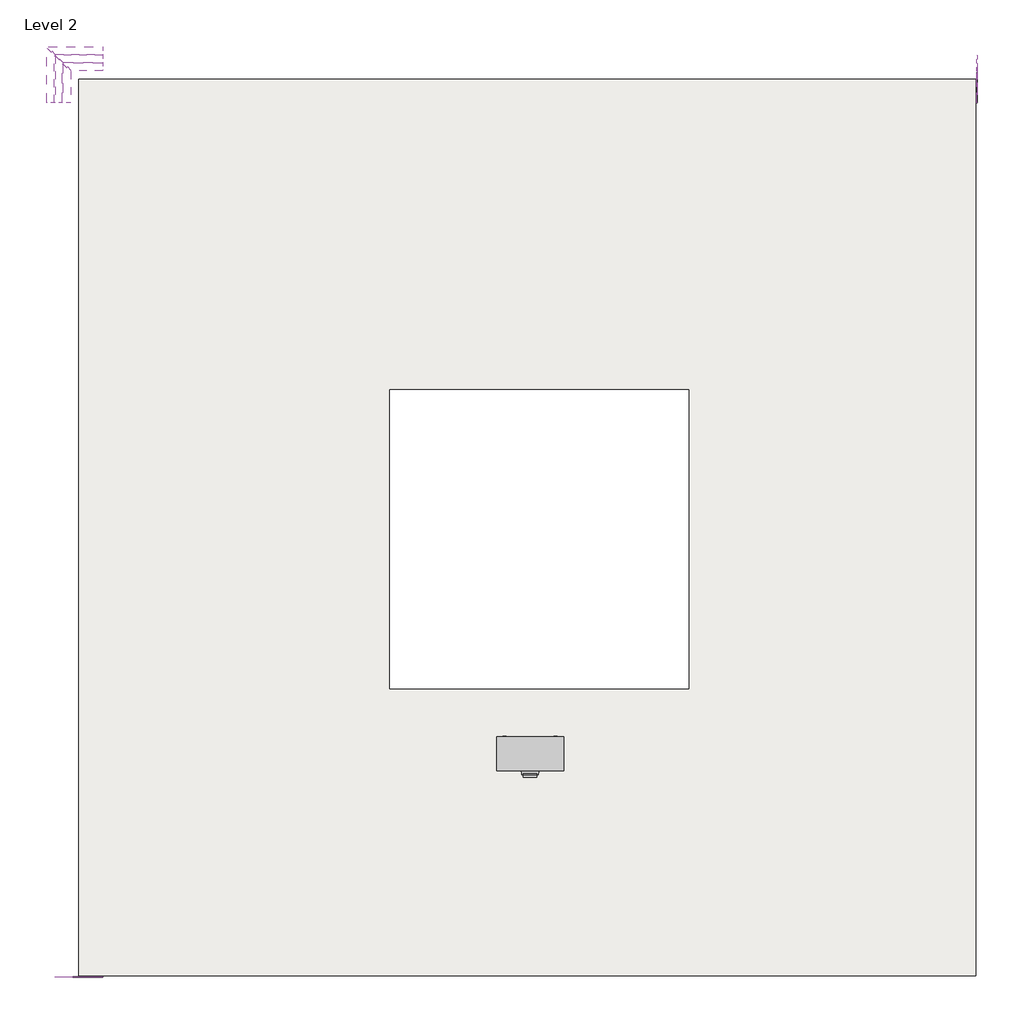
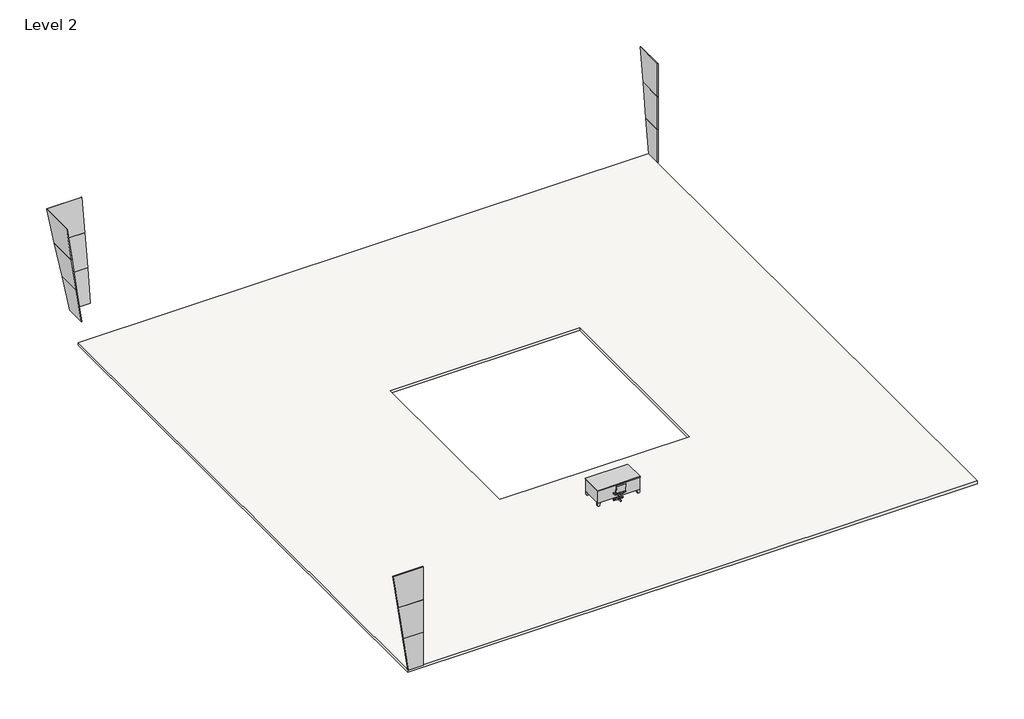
# One storey, incomplete: 12 plates, 2 furniture elements, 1 slab.
"""IFC4 building model written with IfcOpenShell, lengths in millimetres."""

import ifcopenshell
import ifcopenshell.guid

model = None  # the IFC model being written
_history = None  # IfcOwnerHistory: only IFC2X3 demands one
_inside = {}  # id of a spatial element -> (the spatial element, [elements in it])
_under = {}  # id of a project, library or spatial element -> (it, [spatial elements below it])
_declared = {}  # id of a project -> (the project, [libraries it declares])
_typed = {}  # id of a type object -> (the type object, [elements of that type])
_made_of = {}  # id of a material, layer set ... -> (it, [elements and type objects made of it])


def new_model(schema):
    """Start an empty IFC model of exactly this schema.

    Asked for "IFC4X3", IfcOpenShell would pick the latest addendum, in which some entities
    have other attributes; the version numbers below select the first issue.
    IFC2X3 requires an IfcOwnerHistory on every rooted entity: one is made here for all.
    """
    global model, _history
    if schema == "IFC4X3":
        model = ifcopenshell.file(schema_version=(4, 3, 0, 0))
    else:
        model = ifcopenshell.file(schema=schema)
    _inside.clear()
    _under.clear()
    _declared.clear()
    _typed.clear()
    _made_of.clear()
    _history = None
    if model.schema == "IFC2X3":
        org = make("IfcOrganization", Name="unknown")
        user = make(
            "IfcPersonAndOrganization",
            ThePerson=make("IfcPerson", FamilyName="unknown"),
            TheOrganization=org,
        )
        app = make(
            "IfcApplication",
            ApplicationDeveloper=org,
            Version="unknown",
            ApplicationFullName="unknown",
            ApplicationIdentifier="unknown",
        )
        _history = make(
            "IfcOwnerHistory",
            OwningUser=user,
            OwningApplication=app,
            ChangeAction="ADDED",
            CreationDate=0,
        )
    return model


def make(cls, **values):
    """One entity of the class cls with the attributes given. An attribute that is None is left unset."""
    return model.create_entity(
        cls, **{name: value for name, value in values.items() if value is not None}
    )


def rooted(cls, **values):
    """An entity with a GlobalId (a new one), such as an element, a storey or a relation."""
    return make(cls, GlobalId=ifcopenshell.guid.new(), OwnerHistory=_history, **values)


def si_unit(unit_type, name, prefix=None):
    """IfcSIUnit, for example si_unit("LENGTHUNIT", "METRE", prefix="MILLI")."""
    return make("IfcSIUnit", UnitType=unit_type, Prefix=prefix, Name=name)


def assignment(units):
    """IfcUnitAssignment: the units of a project."""
    return None if units is None else make("IfcUnitAssignment", Units=units)


def point(xyz):
    """IfcCartesianPoint."""
    return None if xyz is None else make("IfcCartesianPoint", Coordinates=xyz)


def direction(xyz):
    """IfcDirection."""
    return None if xyz is None else make("IfcDirection", DirectionRatios=xyz)


def frame(location, z_axis=None, x_axis=None):
    """IfcAxis2Placement3D, a coordinate frame: its origin and axes. An axis left out is left unset."""
    return make(
        "IfcAxis2Placement3D",
        Location=point(location),
        Axis=direction(z_axis),
        RefDirection=direction(x_axis),
    )


def frame_2d(location, x_axis=None):
    """IfcAxis2Placement2D, a coordinate frame in the plane: its origin and x axis."""
    return make(
        "IfcAxis2Placement2D", Location=point(location), RefDirection=direction(x_axis)
    )


def origin():
    """The frame at (0, 0, 0) with its axes left unset."""
    return frame((0.0, 0.0, 0.0))


def origin_with_axes():
    """The frame at (0, 0, 0) with the z axis (0, 0, 1) and the x axis (1, 0, 0) written out."""
    return frame((0.0, 0.0, 0.0), z_axis=(0.0, 0.0, 1.0), x_axis=(1.0, 0.0, 0.0))


def place(relative_to, where):
    """IfcLocalPlacement: puts the frame where relative to a parent placement (None: the world)."""
    return make(
        "IfcLocalPlacement", PlacementRelTo=relative_to, RelativePlacement=where
    )


def context(
    kind, dimensions, precision=None, world=None, true_north=None, identifier=None
):
    """IfcGeometricRepresentationContext, for example the 3D "Model" context."""
    return make(
        "IfcGeometricRepresentationContext",
        ContextIdentifier=identifier,
        ContextType=kind,
        CoordinateSpaceDimension=dimensions,
        Precision=precision,
        WorldCoordinateSystem=world,
        TrueNorth=true_north,
    )


def project(units=None, contexts=None):
    """IfcProject with its units and contexts."""
    return rooted(
        "IfcProject",
        Name="project",
        RepresentationContexts=contexts,
        UnitsInContext=assignment(units),
    )


def spatial(cls, under=None, at=None, **own):
    """A site, building, storey or space (cls), placed at a placement, below another one or the project."""
    s = rooted(cls, ObjectPlacement=at, **own)
    if under is not None:
        _under.setdefault(under.id(), (under, []))[1].append(s)
    return s


def polyline(points):
    """IfcPolyline through the points."""
    return make("IfcPolyline", Points=[point(p) for p in points])


def circle_curve(where, radius):
    """IfcCircle in the frame where."""
    return make("IfcCircle", Position=where, Radius=radius)


def trimmed(basis, trim1, trim2, sense, master):
    """IfcTrimmedCurve: the piece of a basis curve between two trims."""
    return make(
        "IfcTrimmedCurve",
        BasisCurve=basis,
        Trim1=trim1,
        Trim2=trim2,
        SenseAgreement=sense,
        MasterRepresentation=master,
    )


def segment(curve, same_sense, transition):
    """IfcCompositeCurveSegment."""
    return make(
        "IfcCompositeCurveSegment",
        Transition=transition,
        SameSense=same_sense,
        ParentCurve=curve,
    )


def composite_curve(segments, self_intersect=None):
    """IfcCompositeCurve: segments joined end to end."""
    return make("IfcCompositeCurve", Segments=segments, SelfIntersect=self_intersect)


def outline(outer, holes=None, kind="AREA"):
    """IfcArbitraryClosedProfileDef: a profile drawn as a closed curve; with holes, ...WithVoids."""
    if holes is None:
        return make("IfcArbitraryClosedProfileDef", ProfileType=kind, OuterCurve=outer)
    return make(
        "IfcArbitraryProfileDefWithVoids",
        ProfileType=kind,
        OuterCurve=outer,
        InnerCurves=holes,
    )


def extrude(swept, where, along, depth):
    """IfcExtrudedAreaSolid: the profile swept, set in the frame where, extruded along a direction by depth."""
    return make(
        "IfcExtrudedAreaSolid",
        SweptArea=swept,
        Position=where,
        ExtrudedDirection=direction(along),
        Depth=depth,
    )


def faces_of(points, faces, orient=None, outer=None):
    """IfcFace entities. A face is a list of loops; a loop is a list of indices into points, from 0.

    orient and outer hold one flag for each loop. By default every Orientation is true, the
    first loop of a face is its IfcFaceOuterBound and the others are IfcFaceBound.
    """
    made = []
    for i, loops in enumerate(faces):
        bounds = []
        for j, loop in enumerate(loops):
            is_outer = j == 0 if outer is None else outer[i][j]
            bounds.append(
                make(
                    "IfcFaceOuterBound" if is_outer else "IfcFaceBound",
                    Bound=make("IfcPolyLoop", Polygon=[points[k] for k in loop]),
                    Orientation=True if orient is None else orient[i][j],
                )
            )
        made.append(make("IfcFace", Bounds=bounds))
    return made


def faceted_brep(points, faces, orient=None, outer=None, voids=None):
    """IfcFacetedBrep: a solid bounded by flat faces; with voids (closed shells), ...WithVoids."""
    shared = [point(p) for p in points]
    hull = make("IfcClosedShell", CfsFaces=faces_of(shared, faces, orient, outer))
    if voids is None:
        return make("IfcFacetedBrep", Outer=hull)
    return make(
        "IfcFacetedBrepWithVoids",
        Outer=hull,
        Voids=[
            make(cls, CfsFaces=faces_of(shared, fs, o, b)) for cls, fs, o, b in voids
        ],
    )


def shape(context_of_items, identifier, shape_type, items):
    """IfcShapeRepresentation: the items that make up one representation, for example the "Body"."""
    return make(
        "IfcShapeRepresentation",
        ContextOfItems=context_of_items,
        RepresentationIdentifier=identifier,
        RepresentationType=shape_type,
        Items=items,
    )


def source(mapping_origin, context_of_items, identifier, shape_type, items):
    """IfcRepresentationMap: a shape defined once, which mapped items show again and again."""
    return make(
        "IfcRepresentationMap",
        MappingOrigin=mapping_origin,
        MappedRepresentation=shape(context_of_items, identifier, shape_type, items),
    )


def transform(
    local_origin,
    x_axis=None,
    y_axis=None,
    z_axis=None,
    scale=None,
    scale2=None,
    scale3=None,
    uniform=True,
):
    """IfcCartesianTransformationOperator3D, or its non-uniform kind. x_axis, y_axis, z_axis: its Axis1, 2, 3."""
    if uniform:
        return make(
            "IfcCartesianTransformationOperator3D",
            Axis1=direction(x_axis),
            Axis2=direction(y_axis),
            LocalOrigin=point(local_origin),
            Scale=scale,
            Axis3=direction(z_axis),
        )
    return make(
        "IfcCartesianTransformationOperator3DnonUniform",
        Axis1=direction(x_axis),
        Axis2=direction(y_axis),
        LocalOrigin=point(local_origin),
        Scale=scale,
        Axis3=direction(z_axis),
        Scale2=scale2,
        Scale3=scale3,
    )


def mapped(mapping_source, mapping_target):
    """IfcMappedItem: shows the shape of a source again, moved by a transform."""
    return make(
        "IfcMappedItem", MappingSource=mapping_source, MappingTarget=mapping_target
    )


def made_of(thing, what):
    """Note that an element or type object is made of a material, layer set ...; save() writes the relation."""
    if what is not None:
        _made_of.setdefault(what.id(), (what, []))[1].append(thing)
    return thing


def element(
    cls,
    number,
    at=None,
    inside=None,
    cuts=None,
    type_object=None,
    material=None,
    context=None,
    identifier="Body",
    shape_type=None,
    held_by="IfcProductDefinitionShape",
    body=None,
    shapes=None,
    **own,
):
    """One element of the class cls, such as IfcWall. Its Tag is "e" and its number.

    at: its placement. inside: the storey or other place that contains it. cuts: it is an
    opening in that element (IfcRelVoidsElement). A single representation is given by context,
    identifier, shape_type and body (its items); several are given by shapes. held_by: the class
    of the entity that holds the representations. save() writes the other relations.
    """
    e = rooted(cls, Tag="e%d" % number, ObjectPlacement=at, **own)
    if body is not None:
        shapes = [shape(context, identifier, shape_type, body)]
    if shapes is not None:
        e.Representation = make(held_by, Representations=shapes)
    if inside is not None:
        _inside.setdefault(inside.id(), (inside, []))[1].append(e)
    if cuts is not None:
        rooted(
            "IfcRelVoidsElement", RelatingBuildingElement=cuts, RelatedOpeningElement=e
        )
    if type_object is not None:
        _typed.setdefault(type_object.id(), (type_object, []))[1].append(e)
    return made_of(e, material)


def aggregate(whole, parts):
    """IfcRelAggregates: a whole, such as a stair, and the parts it consists of."""
    return rooted("IfcRelAggregates", RelatingObject=whole, RelatedObjects=parts)


def save(model, path):
    """Write the relations noted so far, then the file.

    IfcRelAggregates (storeys below a building ...), IfcRelContainedInSpatialStructure (elements
    in a storey), IfcRelDefinesByType, IfcRelAssociatesMaterial and IfcRelDeclares: one each for
    every whole, place, type object, material and project.
    """
    for whole, parts in _under.values():
        aggregate(whole, parts)
    for where, things in _inside.values():
        rooted(
            "IfcRelContainedInSpatialStructure",
            RelatedElements=things,
            RelatingStructure=where,
        )
    for kind, things in _typed.values():
        rooted("IfcRelDefinesByType", RelatedObjects=things, RelatingType=kind)
    for what, things in _made_of.values():
        rooted("IfcRelAssociatesMaterial", RelatedObjects=things, RelatingMaterial=what)
    for by, libraries in _declared.values():
        rooted("IfcRelDeclares", RelatingContext=by, RelatedDefinitions=libraries)
    model.write(path)


def chair_desk_chair_desk_ccc35c8f(model_context):
    return source(origin(), model_context, "Body", "SweptSolid", [
        extrude(outline(polyline([(-203.6618182, 175.0290909), (-25.8618182, 175.0290909), (-25.8618182, 150.0462968), (-203.6618182, 150.0462968), (-203.6618182, 175.0290909)])), origin_with_axes(), (0.0, 0.0, 1.0), 58.5040426),
        extrude(outline(polyline([(204.1236364, 175.0290909), (204.1236364, 152.4), (26.7854545, 152.4), (26.7854545, 175.0290909), (204.1236364, 175.0290909)])), origin_with_axes(), (0.0, 0.0, 1.0), 58.5040426),
        extrude(outline(polyline([(-16.1636364, 188.8836364), (-16.1636364, 374.9517514), (14.3163636, 374.9517514), (14.3163636, 188.8836364), (-16.1636364, 188.8836364)])), origin_with_axes(), (0.0, 0.0, 1.0), 58.5040426),
        extrude(outline(polyline([(14.3163636, 136.2363636), (14.3163636, -33.2509091), (-16.1636364, -33.2509091), (-16.1636364, 136.2363636), (14.3163636, 136.2363636)])), origin_with_axes(), (0.0, 0.0, 1.0), 58.5040426),
        extrude(outline(polyline([(26.3236364, 190.2690909), (26.3236364, 139.4690909), (-24.4763636, 139.4690909), (-24.4763636, 190.2690909), (26.3236364, 190.2690909)])), origin_with_axes(), (0.0, 0.0, 1.0), 355.6),
        extrude(outline(composite_curve([segment(polyline([(-13.6321252, 787.4), (25.5523927, 451.3880753)]), True, "CONTINUOUS"), segment(trimmed(circle_curve(frame_2d((0.0761963, 451.3880753)), 25.4761963), [point((25.5523927, 451.3880753))], [point((-25.4, 451.3880753))], False, "CARTESIAN"), True, "CONTINUOUS"), segment(polyline([(-25.4, 451.3880753), (-67.209111, 787.4)]), True, "CONTINUOUS"), segment(trimmed(circle_curve(frame_2d((-40.4206181, 787.4)), 26.7884929), [point((-67.209111, 787.4))], [point((-13.6321252, 787.4))], False, "CARTESIAN"), True, "CONTINUOUS")], self_intersect=False)), frame((-194.3643056, 0.0, 0.0), z_axis=(1.0, 0.0, 0.0), x_axis=(0.0, 1.0, 0.0)), (0.0, 0.0, 1.0), 383.2768056),
        extrude(outline(composite_curve([segment(trimmed(circle_curve(frame_2d((-157.1362322, 297.1024212)), 109.4001491), [point((-266.4057871, 302.4462968))], [point((-152.4, 406.4))], False, "CARTESIAN"), True, "CONTINUOUS"), segment(polyline([(-152.4, 406.4), (162.2530084, 406.4)]), True, "CONTINUOUS"), segment(trimmed(circle_curve(frame_2d((162.2530084, 302.4462968)), 103.9537032), [point((162.2530084, 406.4))], [point((266.2067116, 302.4462968))], False, "CARTESIAN"), True, "CONTINUOUS"), segment(polyline([(266.2067116, 302.4462968), (228.6, 0.0)]), True, "CONTINUOUS"), segment(trimmed(circle_curve(frame_2d((0.0, 446.8941036)), 501.9684252), [point((228.6, 0.0))], [point((-228.6, 0.0))], False, "CARTESIAN"), True, "CONTINUOUS"), segment(polyline([(-228.6, 0.0), (-266.4057871, 302.4462968)]), True, "CONTINUOUS")], self_intersect=False)), frame((0.0, 0.0, 355.6), z_axis=(0.0, 0.0, 1.0), x_axis=(1.0, 0.0, 0.0)), (0.0, 0.0, 1.0), 50.8),
    ])


def furniture_2fc54265(model_context):
    return source(origin(), model_context, "Body", "SolidModel", [
        extrude(outline(polyline([(1809.75, 914.4), (1441.45, 914.4), (1441.45, 927.1), (1809.75, 927.1), (1809.75, 914.4)])), frame((0.0, 0.0, 603.25), z_axis=(0.0, 0.0, 1.0), x_axis=(1.0, 0.0, 0.0)), (0.0, 0.0, 1.0), 101.6),
        extrude(outline(polyline([(1809.75, 914.4), (1441.45, 914.4), (1441.45, 927.1), (1809.75, 927.1), (1809.75, 914.4)])), frame((0.0, 0.0, 171.45), z_axis=(0.0, 0.0, 1.0), x_axis=(1.0, 0.0, 0.0)), (0.0, 0.0, 1.0), 412.75),
        extrude(outline(polyline([(387.35, 914.4), (19.05, 914.4), (19.05, 927.1), (387.35, 927.1), (387.35, 914.4)])), frame((0.0, 0.0, 603.25), z_axis=(0.0, 0.0, 1.0), x_axis=(1.0, 0.0, 0.0)), (0.0, 0.0, 1.0), 101.6),
        extrude(outline(polyline([(387.35, 914.4), (19.05, 914.4), (19.05, 927.1), (387.35, 927.1), (387.35, 914.4)])), frame((0.0, 0.0, 171.45), z_axis=(0.0, 0.0, 1.0), x_axis=(1.0, 0.0, 0.0)), (0.0, 0.0, 1.0), 171.45),
        extrude(outline(polyline([(387.35, 914.4), (19.05, 914.4), (19.05, 927.1), (387.35, 927.1), (387.35, 914.4)])), frame((0.0, 0.0, 482.6), z_axis=(0.0, 0.0, 1.0), x_axis=(1.0, 0.0, 0.0)), (0.0, 0.0, 1.0), 101.6),
        extrude(outline(polyline([(387.35, 914.4), (19.05, 914.4), (19.05, 927.1), (387.35, 927.1), (387.35, 914.4)])), frame((0.0, 0.0, 361.95), z_axis=(0.0, 0.0, 1.0), x_axis=(1.0, 0.0, 0.0)), (0.0, 0.0, 1.0), 101.6),
        faceted_brep([(1727.2, 914.4, 152.4), (1727.2, 812.8, 152.4), (1828.8, 812.8, 152.4), (1828.8, 914.4, 152.4), (1752.6, 914.4, 0.0), (1828.8, 914.4, 0.0), (1828.8, 838.2, 0.0), (1752.6, 838.2, 0.0)], [[[0, 1, 2, 3]], [[4, 5, 6, 7]], [[4, 7, 1, 0]], [[7, 6, 2, 1]], [[6, 5, 3, 2]], [[5, 4, 0, 3]]]),
        faceted_brep([(1727.2, 0.0, 152.4), (1828.8, 0.0, 152.4), (1828.8, 101.6, 152.4), (1727.2, 101.6, 152.4), (1752.6, 0.0, 0.0), (1752.6, 76.2, 0.0), (1828.8, 76.2, 0.0), (1828.8, 0.0, 0.0)], [[[0, 1, 2, 3]], [[4, 5, 6, 7]], [[4, 7, 1, 0]], [[7, 6, 2, 1]], [[6, 5, 3, 2]], [[5, 4, 0, 3]]]),
        faceted_brep([(101.6, 0.0, 152.4), (101.6, 101.6, 152.4), (0.0, 101.6, 152.4), (0.0, 0.0, 152.4), (76.2, 0.0, 0.0), (0.0, 0.0, 0.0), (0.0, 76.2, 0.0), (76.2, 76.2, 0.0)], [[[0, 1, 2, 3]], [[4, 5, 6, 7]], [[4, 7, 1, 0]], [[7, 6, 2, 1]], [[6, 5, 3, 2]], [[5, 4, 0, 3]]]),
        faceted_brep([(101.6, 914.4, 152.4), (0.0, 914.4, 152.4), (0.0, 812.8, 152.4), (101.6, 812.8, 152.4), (76.2, 914.4, 0.0), (76.2, 838.2, 0.0), (0.0, 838.2, 0.0), (0.0, 914.4, 0.0)], [[[0, 1, 2, 3]], [[4, 5, 6, 7]], [[4, 7, 1, 0]], [[7, 6, 2, 1]], [[6, 5, 3, 2]], [[5, 4, 0, 3]]]),
        extrude(outline(polyline([(1847.85, 933.45), (1847.85, -19.05), (-19.05, -19.05), (-19.05, 933.45), (1847.85, 933.45)])), frame((0.0, 0.0, 723.9), z_axis=(0.0, 0.0, 1.0), x_axis=(1.0, 0.0, 0.0)), (0.0, 0.0, 1.0), 38.1),
        extrude(outline(polyline([(406.4, 914.4), (406.4, 50.8), (1422.4, 50.8), (1422.4, 914.4), (1828.8, 914.4), (1828.8, 0.0), (0.0, 0.0), (0.0, 914.4), (406.4, 914.4)])), frame((0.0, 0.0, 152.4), z_axis=(0.0, 0.0, 1.0), x_axis=(1.0, 0.0, 0.0)), (0.0, 0.0, 1.0), 571.5),
        faceted_brep([(1670.05, 927.1, 546.1), (1670.05, 927.1, 533.4), (1676.4, 927.1, 533.4), (1676.4, 927.1, 546.1), (1670.05, 946.15, 546.1), (1670.05, 946.15, 533.4), (1676.4, 952.5, 533.4), (1676.4, 952.5, 546.1), (1581.15, 946.15, 546.1), (1581.15, 946.15, 533.4), (1574.8, 952.5, 533.4), (1574.8, 952.5, 546.1), (1581.15, 927.1, 546.1), (1574.8, 927.1, 546.1), (1574.8, 927.1, 533.4), (1581.15, 927.1, 533.4)], [[[0, 1, 2, 3]], [[1, 0, 4, 5]], [[2, 1, 5, 6]], [[3, 2, 6, 7]], [[0, 3, 7, 4]], [[5, 4, 8, 9]], [[6, 5, 9, 10]], [[7, 6, 10, 11]], [[4, 7, 11, 8]], [[12, 13, 14, 15]], [[9, 8, 12, 15]], [[10, 9, 15, 14]], [[11, 10, 14, 13]], [[8, 11, 13, 12]]]),
        faceted_brep([(1670.05, 927.1, 666.75), (1670.05, 927.1, 654.05), (1676.4, 927.1, 654.05), (1676.4, 927.1, 666.75), (1670.05, 946.15, 666.75), (1670.05, 946.15, 654.05), (1676.4, 952.5, 654.05), (1676.4, 952.5, 666.75), (1581.15, 946.15, 666.75), (1581.15, 946.15, 654.05), (1574.8, 952.5, 654.05), (1574.8, 952.5, 666.75), (1581.15, 927.1, 666.75), (1574.8, 927.1, 666.75), (1574.8, 927.1, 654.05), (1581.15, 927.1, 654.05)], [[[0, 1, 2, 3]], [[1, 0, 4, 5]], [[2, 1, 5, 6]], [[3, 2, 6, 7]], [[0, 3, 7, 4]], [[5, 4, 8, 9]], [[6, 5, 9, 10]], [[7, 6, 10, 11]], [[4, 7, 11, 8]], [[12, 13, 14, 15]], [[9, 8, 12, 15]], [[10, 9, 15, 14]], [[11, 10, 14, 13]], [[8, 11, 13, 12]]]),
        faceted_brep([(158.75, 927.1, 304.8), (152.4, 927.1, 304.8), (152.4, 927.1, 292.1), (158.75, 927.1, 292.1), (158.75, 946.15, 304.8), (152.4, 952.5, 304.8), (152.4, 952.5, 292.1), (158.75, 946.15, 292.1), (247.65, 946.15, 304.8), (254.0, 952.5, 304.8), (254.0, 952.5, 292.1), (247.65, 946.15, 292.1), (247.65, 927.1, 304.8), (247.65, 927.1, 292.1), (254.0, 927.1, 292.1), (254.0, 927.1, 304.8)], [[[0, 1, 2, 3]], [[1, 0, 4, 5]], [[2, 1, 5, 6]], [[3, 2, 6, 7]], [[0, 3, 7, 4]], [[5, 4, 8, 9]], [[6, 5, 9, 10]], [[7, 6, 10, 11]], [[4, 7, 11, 8]], [[12, 13, 14, 15]], [[9, 8, 12, 15]], [[10, 9, 15, 14]], [[11, 10, 14, 13]], [[8, 11, 13, 12]]]),
        faceted_brep([(158.75, 927.1, 425.45), (152.4, 927.1, 425.45), (152.4, 927.1, 412.75), (158.75, 927.1, 412.75), (158.75, 946.15, 425.45), (152.4, 952.5, 425.45), (152.4, 952.5, 412.75), (158.75, 946.15, 412.75), (247.65, 946.15, 425.45), (254.0, 952.5, 425.45), (254.0, 952.5, 412.75), (247.65, 946.15, 412.75), (247.65, 927.1, 425.45), (247.65, 927.1, 412.75), (254.0, 927.1, 412.75), (254.0, 927.1, 425.45)], [[[0, 1, 2, 3]], [[1, 0, 4, 5]], [[2, 1, 5, 6]], [[3, 2, 6, 7]], [[0, 3, 7, 4]], [[5, 4, 8, 9]], [[6, 5, 9, 10]], [[7, 6, 10, 11]], [[4, 7, 11, 8]], [[12, 13, 14, 15]], [[9, 8, 12, 15]], [[10, 9, 15, 14]], [[11, 10, 14, 13]], [[8, 11, 13, 12]]]),
        faceted_brep([(158.75, 927.1, 546.1), (152.4, 927.1, 546.1), (152.4, 927.1, 533.4), (158.75, 927.1, 533.4), (158.75, 946.15, 546.1), (152.4, 952.5, 546.1), (152.4, 952.5, 533.4), (158.75, 946.15, 533.4), (247.65, 946.15, 546.1), (254.0, 952.5, 546.1), (254.0, 952.5, 533.4), (247.65, 946.15, 533.4), (247.65, 927.1, 546.1), (247.65, 927.1, 533.4), (254.0, 927.1, 533.4), (254.0, 927.1, 546.1)], [[[0, 1, 2, 3]], [[1, 0, 4, 5]], [[2, 1, 5, 6]], [[3, 2, 6, 7]], [[0, 3, 7, 4]], [[5, 4, 8, 9]], [[6, 5, 9, 10]], [[7, 6, 10, 11]], [[4, 7, 11, 8]], [[12, 13, 14, 15]], [[9, 8, 12, 15]], [[10, 9, 15, 14]], [[11, 10, 14, 13]], [[8, 11, 13, 12]]]),
        faceted_brep([(158.75, 927.1, 666.75), (152.4, 927.1, 666.75), (152.4, 927.1, 654.05), (158.75, 927.1, 654.05), (158.75, 946.15, 666.75), (152.4, 952.5, 666.75), (152.4, 952.5, 654.05), (158.75, 946.15, 654.05), (247.65, 946.15, 666.75), (254.0, 952.5, 666.75), (254.0, 952.5, 654.05), (247.65, 946.15, 654.05), (247.65, 927.1, 666.75), (247.65, 927.1, 654.05), (254.0, 927.1, 654.05), (254.0, 927.1, 666.75)], [[[0, 1, 2, 3]], [[1, 0, 4, 5]], [[2, 1, 5, 6]], [[3, 2, 6, 7]], [[0, 3, 7, 4]], [[5, 4, 8, 9]], [[6, 5, 9, 10]], [[7, 6, 10, 11]], [[4, 7, 11, 8]], [[12, 13, 14, 15]], [[9, 8, 12, 15]], [[10, 9, 15, 14]], [[11, 10, 14, 13]], [[8, 11, 13, 12]]]),
    ])


def system_panel_glazed_f2a6c490(model_context):
    return source(origin(), model_context, "Body", "SweptSolid", [
        extrude(outline(polyline([(0.0, -325.5680328), (0.0, 542.6133879), (1524.0, 542.6133879), (1524.0, -542.6133879), (0.0, -325.5680328)])), frame((0.0, 19.05, 0.0), z_axis=(0.0, 1.0, 0.0), x_axis=(0.0, 0.0, 1.0)), (0.0, 0.0, 1.0), 25.4),
    ])


def system_panel_glazed_aa88bed7(model_context):
    return source(origin(), model_context, "Body", "SweptSolid", [
        extrude(outline(polyline([(0.0, -434.0907104), (0.0, 651.1360655), (1524.0, 651.1360655), (1524.0, -651.1360655), (0.0, -434.0907104)])), frame((0.0, 19.05, 0.0), z_axis=(0.0, 1.0, 0.0), x_axis=(0.0, 0.0, 1.0)), (0.0, 0.0, 1.0), 25.4),
    ])


def system_panel_glazed_8974581c(model_context):
    return source(origin(), model_context, "Body", "SweptSolid", [
        extrude(outline(polyline([(0.0, -542.6133879), (0.0, 759.658743), (1524.0, 759.658743), (1524.0, -759.658743), (0.0, -542.6133879)])), frame((0.0, 19.05, 0.0), z_axis=(0.0, 1.0, 0.0), x_axis=(0.0, 0.0, 1.0)), (0.0, 0.0, 1.0), 25.4),
    ])


def system_panel_glazed_7921cbcf(model_context):
    return source(origin(), model_context, "Body", "SweptSolid", [
        extrude(outline(polyline([(0.0, -542.6133877), (0.0, 325.5680326), (1524.0, 542.6133877), (1524.0, -542.6133877), (0.0, -542.6133877)])), frame((0.0, 19.05, 0.0), z_axis=(0.0, 1.0, 0.0), x_axis=(0.0, 0.0, 1.0)), (0.0, 0.0, 1.0), 25.4),
    ])


def system_panel_glazed_529520c9(model_context):
    return source(origin(), model_context, "Body", "SweptSolid", [
        extrude(outline(polyline([(0.0, -651.1360653), (0.0, 434.0907102), (1524.0, 651.1360653), (1524.0, -651.1360653), (0.0, -651.1360653)])), frame((0.0, 19.05, 0.0), z_axis=(0.0, 1.0, 0.0), x_axis=(0.0, 0.0, 1.0)), (0.0, 0.0, 1.0), 25.4),
    ])


def system_panel_glazed_3f6d0544(model_context):
    return source(origin(), model_context, "Body", "SweptSolid", [
        extrude(outline(polyline([(0.0, -759.6587428), (0.0, 542.6133877), (1524.0, 759.6587428), (1524.0, -759.6587428), (0.0, -759.6587428)])), frame((0.0, 19.05, 0.0), z_axis=(0.0, 1.0, 0.0), x_axis=(0.0, 0.0, 1.0)), (0.0, 0.0, 1.0), 25.4),
    ])


def system_panel_glazed_ce6372bf(model_context):
    return source(origin(), model_context, "Body", "SweptSolid", [
        extrude(outline(polyline([(0.0, -219.2805757), (0.0, 438.5611512), (1524.0, 438.5611512), (1524.0, -438.5611512), (0.0, -219.2805757)])), frame((0.0, 19.05, 0.0), z_axis=(0.0, 1.0, 0.0), x_axis=(0.0, 0.0, 1.0)), (0.0, 0.0, 1.0), 25.4),
    ])


def system_panel_glazed_0fee5127(model_context):
    return source(origin(), model_context, "Body", "SweptSolid", [
        extrude(outline(polyline([(0.0, -328.9208635), (0.0, 548.201439), (1524.0, 548.201439), (1524.0, -548.201439), (0.0, -328.9208635)])), frame((0.0, 19.05, 0.0), z_axis=(0.0, 1.0, 0.0), x_axis=(0.0, 0.0, 1.0)), (0.0, 0.0, 1.0), 25.4),
    ])


def system_panel_glazed_089a2384(model_context):
    return source(origin(), model_context, "Body", "SweptSolid", [
        extrude(outline(polyline([(0.0, -438.5611512), (0.0, 657.8417268), (1524.0, 657.8417268), (1524.0, -657.8417268), (0.0, -438.5611512)])), frame((0.0, 19.05, 0.0), z_axis=(0.0, 1.0, 0.0), x_axis=(0.0, 0.0, 1.0)), (0.0, 0.0, 1.0), 25.4),
    ])


def system_panel_glazed_327a8c87(model_context):
    return source(origin(), model_context, "Body", "SweptSolid", [
        extrude(outline(polyline([(0.0, -438.5611511), (0.0, 219.2805755), (1524.0, 438.5611511), (1524.0, -438.5611511), (0.0, -438.5611511)])), frame((0.0, 19.05, 0.0), z_axis=(0.0, 1.0, 0.0), x_axis=(0.0, 0.0, 1.0)), (0.0, 0.0, 1.0), 25.4),
    ])


def system_panel_glazed_b25ebf19(model_context):
    return source(origin(), model_context, "Body", "SweptSolid", [
        extrude(outline(polyline([(0.0, -548.2014388), (0.0, 328.9208633), (1524.0, 548.2014388), (1524.0, -548.2014388), (0.0, -548.2014388)])), frame((0.0, 19.05, 0.0), z_axis=(0.0, 1.0, 0.0), x_axis=(0.0, 0.0, 1.0)), (0.0, 0.0, 1.0), 25.4),
    ])


def system_panel_glazed_48efdeb7(model_context):
    return source(origin(), model_context, "Body", "SweptSolid", [
        extrude(outline(polyline([(0.0, -657.8417266), (0.0, 438.5611511), (1524.0, 657.8417266), (1524.0, -657.8417266), (0.0, -657.8417266)])), frame((0.0, 19.05, 0.0), z_axis=(0.0, 1.0, 0.0), x_axis=(0.0, 0.0, 1.0)), (0.0, 0.0, 1.0), 25.4),
    ])


model = new_model("IFC4")

# Units and contexts
model_context = context("Model", 3, world=origin())
ifc_project = project(units=[si_unit("LENGTHUNIT", "METRE", prefix="MILLI")], contexts=[model_context])

# Site, building, storey
site = spatial("IfcSite", under=ifc_project)
building = spatial("IfcBuilding", under=site)
storey = spatial("IfcBuildingStorey", under=building, Name="Level 2", Elevation=4572.0)

# Furniture
placement = place(None, origin())
chair_desk_chair_desk_shape = chair_desk_chair_desk_ccc35c8f(model_context)
element("IfcFurniture", 1, ObjectType="Chair-Desk : Chair-Desk", at=placement, inside=storey, context=model_context, shape_type="MappedRepresentation", body=[
    mapped(chair_desk_chair_desk_shape, transform((-3928.2026957, -6947.9708988, 4572.0), x_axis=(1.0, 0.0, 0.0), y_axis=(0.0, 1.0, 0.0), z_axis=(0.0, 0.0, 1.0))),
])
furniture_shape = furniture_2fc54265(model_context)
element("IfcFurniture", 2, ObjectType="Desk : 72\" x 36\"", at=placement, inside=storey, context=model_context, shape_type="MappedRepresentation", body=[
    mapped(furniture_shape, transform((-4842.6026957, -6820.9708988, 4572.0), x_axis=(1.0, 0.0, 0.0), y_axis=(0.0, 1.0, 0.0), z_axis=(0.0, 0.0, 1.0))),
])

# Plates
system_panel_glazed_shape = system_panel_glazed_f2a6c490(model_context)
element("IfcPlate", 3, ObjectType="System Panel : Glazed", at=placement, inside=storey, context=model_context, shape_type="MappedRepresentation", body=[
    mapped(system_panel_glazed_shape, transform((-16408.8160833, 12690.8105216, 6033.8608719), x_axis=(1.0, 0.0, 0.0), y_axis=(0.0, 0.9898065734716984, -0.1424182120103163), z_axis=(0.0, 0.1424182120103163, 0.9898065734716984))),
])
system_panel_glazed_2_shape = system_panel_glazed_aa88bed7(model_context)
element("IfcPlate", 4, ObjectType="System Panel : Glazed", at=placement, inside=storey, context=model_context, shape_type="MappedRepresentation", body=[
    mapped(system_panel_glazed_2_shape, transform((-16517.3387608, 12907.8558767, 7542.3260899), x_axis=(1.0, 0.0, 0.0), y_axis=(0.0, 0.9898065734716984, -0.1424182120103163), z_axis=(0.0, 0.1424182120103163, 0.9898065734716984))),
])
system_panel_glazed_3_shape = system_panel_glazed_8974581c(model_context)
element("IfcPlate", 5, ObjectType="System Panel : Glazed", at=placement, inside=storey, context=model_context, shape_type="MappedRepresentation", body=[
    mapped(system_panel_glazed_3_shape, transform((-16625.8614384, 13124.9012318, 9050.7913078), x_axis=(1.0, 0.0, 0.0), y_axis=(0.0, 0.9898065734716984, -0.1424182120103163), z_axis=(0.0, 0.1424182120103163, 0.9898065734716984))),
])
system_panel_glazed_4_shape = system_panel_glazed_7921cbcf(model_context)
element("IfcPlate", 6, ObjectType="System Panel : Glazed", at=placement, inside=storey, context=model_context, shape_type="MappedRepresentation", body=[
    mapped(system_panel_glazed_4_shape, transform((-16734.3841161, 12365.2424889, 6033.8608719), x_axis=(0.0, 1.0, 0.0), y_axis=(-0.9898065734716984, 0.0, -0.1424182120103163), z_axis=(-0.1424182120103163, 0.0, 0.9898065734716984))),
])
system_panel_glazed_5_shape = system_panel_glazed_529520c9(model_context)
element("IfcPlate", 7, ObjectType="System Panel : Glazed", at=placement, inside=storey, context=model_context, shape_type="MappedRepresentation", body=[
    mapped(system_panel_glazed_5_shape, transform((-16951.4294712, 12473.7651665, 7542.3260899), x_axis=(0.0, 1.0, 0.0), y_axis=(-0.9898065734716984, 0.0, -0.1424182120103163), z_axis=(-0.1424182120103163, 0.0, 0.9898065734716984))),
])
system_panel_glazed_6_shape = system_panel_glazed_3f6d0544(model_context)
element("IfcPlate", 8, ObjectType="System Panel : Glazed", at=placement, inside=storey, context=model_context, shape_type="MappedRepresentation", body=[
    mapped(system_panel_glazed_6_shape, transform((-17168.4748263, 12582.2878441, 9050.7913078), x_axis=(0.0, 1.0, 0.0), y_axis=(-0.9898065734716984, 0.0, -0.1424182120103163), z_axis=(-0.1424182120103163, 0.0, 0.9898065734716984))),
])
system_panel_glazed_7_shape = system_panel_glazed_ce6372bf(model_context)
element("IfcPlate", 9, ObjectType="System Panel : Glazed", at=placement, inside=storey, context=model_context, shape_type="MappedRepresentation", body=[
    mapped(system_panel_glazed_7_shape, transform((8517.7973043, 12261.1902521, 4572.0), x_axis=(0.0, -1.0, 0.0), y_axis=(1.0, 0.0, 0.0), z_axis=(0.0, 0.0, 1.0))),
])
system_panel_glazed_8_shape = system_panel_glazed_0fee5127(model_context)
element("IfcPlate", 10, ObjectType="System Panel : Glazed", at=placement, inside=storey, context=model_context, shape_type="MappedRepresentation", body=[
    mapped(system_panel_glazed_8_shape, transform((8517.7973043, 12370.8305399, 6096.0), x_axis=(0.0, -1.0, 0.0), y_axis=(1.0, 0.0, 0.0), z_axis=(0.0, 0.0, 1.0))),
])
system_panel_glazed_9_shape = system_panel_glazed_089a2384(model_context)
element("IfcPlate", 11, ObjectType="System Panel : Glazed", at=placement, inside=storey, context=model_context, shape_type="MappedRepresentation", body=[
    mapped(system_panel_glazed_9_shape, transform((8517.7973043, 12480.4708276, 7620.0), x_axis=(0.0, -1.0, 0.0), y_axis=(1.0, 0.0, 0.0), z_axis=(0.0, 0.0, 1.0))),
])
system_panel_glazed_10_shape = system_panel_glazed_327a8c87(model_context)
element("IfcPlate", 12, ObjectType="System Panel : Glazed", at=placement, inside=storey, context=model_context, shape_type="MappedRepresentation", body=[
    mapped(system_panel_glazed_10_shape, transform((-16304.7638467, -12561.3708988, 4572.0), x_axis=(-1.0, 0.0, 0.0), y_axis=(0.0, -1.0, 0.0), z_axis=(0.0, 0.0, 1.0))),
])
system_panel_glazed_11_shape = system_panel_glazed_b25ebf19(model_context)
element("IfcPlate", 13, ObjectType="System Panel : Glazed", at=placement, inside=storey, context=model_context, shape_type="MappedRepresentation", body=[
    mapped(system_panel_glazed_11_shape, transform((-16414.4041345, -12561.3708988, 6096.0), x_axis=(-1.0, 0.0, 0.0), y_axis=(0.0, -1.0, 0.0), z_axis=(0.0, 0.0, 1.0))),
])
system_panel_glazed_12_shape = system_panel_glazed_48efdeb7(model_context)
element("IfcPlate", 14, ObjectType="System Panel : Glazed", at=placement, inside=storey, context=model_context, shape_type="MappedRepresentation", body=[
    mapped(system_panel_glazed_12_shape, transform((-16524.0444223, -12561.3708988, 7620.0), x_axis=(-1.0, 0.0, 0.0), y_axis=(0.0, -1.0, 0.0), z_axis=(0.0, 0.0, 1.0))),
])

# Slab
element("IfcSlab", 15, ObjectType="3\" LW Concrete on 2\" Metal Deck", at=placement, inside=storey, context=model_context, shape_type="SweptSolid", body=[
    extrude(outline(polyline([(-16524.0444223, -12561.3708988), (-16524.0444223, 12480.4708278), (8517.7973043, 12480.4708278), (8517.7973043, -12561.3708988), (-16524.0444223, -12561.3708988)]), holes=[polyline([(-7844.5651957, 3800.9916012), (-7844.5651957, -4539.7333988), (496.1598043, -4539.7333988), (496.1598043, 3800.9916012), (-7844.5651957, 3800.9916012)])]), frame((0.0, 0.0, 4445.0), z_axis=(0.0, 0.0, 1.0), x_axis=(1.0, 0.0, 0.0)), (0.0, 0.0, 1.0), 127.0),
])

save(model, "model.ifc")
